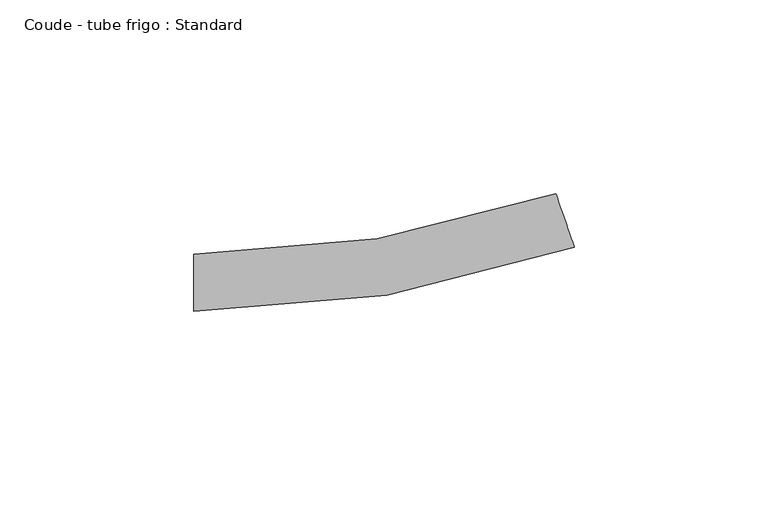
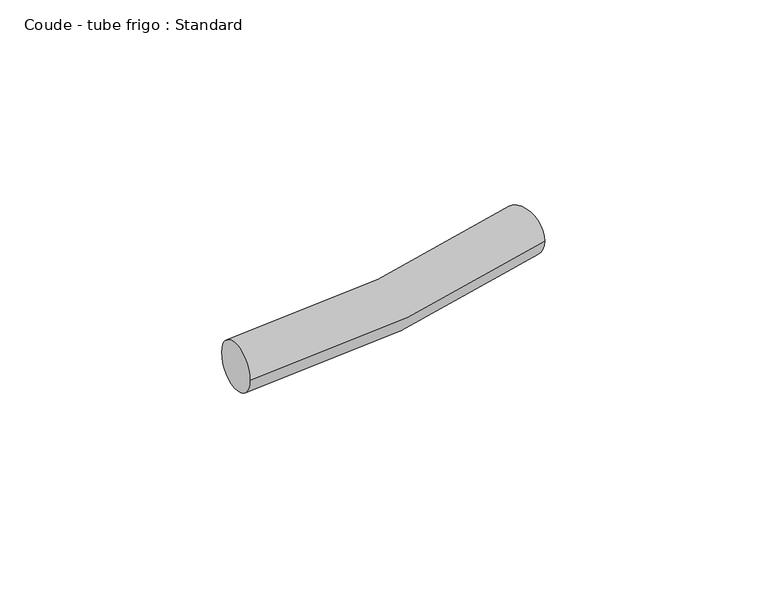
"""IFC4 building model written with IfcOpenShell, lengths in millimetres: pipe fitting geometry, Coude - tube frigo : Standard."""

from ifc_helpers import new_model, si_unit, point, frame, origin, place, context, project, spatial, circle_curve, ellipse_curve, trimmed, source, transform, mapped, element, save
from ifc_brep_helpers import plane_surface, revolved_surface, advanced_brep


def coude_tube_frigo_standard_0133e9cf(model_context):
    return source(origin(), model_context, "Body", "AdvancedBrep", [
        advanced_brep(
        [(-49.3, -7.35, 0.0), (-49.3, 7.35, 0.0), (49.0069917, 9.1009485, 0.0), (44.2211398, 23.0000715, 0.0)],
        [
            (0, 1, circle_curve(frame((-49.3, 0.0, 0.0), z_axis=(-1.0, 0.0, 0.0), x_axis=(0.0, 1.0, 0.0)), 7.35)),
            (1, 0, circle_curve(frame((-49.3, 0.0, 0.0), z_axis=(-1.0, 0.0, 0.0), x_axis=(0.0, 1.0, 0.0)), 7.35)),
            (2, 3, circle_curve(frame((46.6140658, 16.05051, 0.0), z_axis=(0.9455185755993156, 0.3255681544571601, 0.0), x_axis=(-0.3255681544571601, 0.9455185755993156, 0.0)), 7.35)),
            (3, 2, circle_curve(frame((46.6140658, 16.05051, 0.0), z_axis=(0.9455185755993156, 0.3255681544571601, 0.0), x_axis=(-0.3255681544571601, 0.9455185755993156, 0.0)), 7.35)),
            (3, 1, circle_curve(frame((-49.3, 294.6051832, 0.0), z_axis=(0.0, 0.0, -1.0), x_axis=(0.0, -1.0, 0.0)), 287.2551832)),
            (0, 2, circle_curve(frame((-49.3, 294.6051832, 0.0), z_axis=(0.0, 0.0, 1.0), x_axis=(0.0, -1.0, 0.0)), 301.9551832)),
        ],
        [
            plane_surface(frame((-49.3, 0.0, 0.0), z_axis=(-1.0, 0.0, 0.0), x_axis=(0.0, 0.0, 1.0))),
            plane_surface(frame((46.6140658, 16.05051, 0.0), z_axis=(0.9455185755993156, 0.32556815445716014, 0.0), x_axis=(0.0, 0.0, 1.0))),
            revolved_surface(trimmed(ellipse_curve(frame((-49.3, 0.0, 0.0), z_axis=(-1.0, 0.0, 0.0), x_axis=(0.0, 1.0, 0.0)), 7.35, 7.35), [point((-49.3, -7.35, 0.0))], [point((-49.3, 7.35, 0.0))], True, "CARTESIAN"), (-49.3, 294.6051832, 0.0), (0.0, 0.0, 1.0)),
            revolved_surface(trimmed(ellipse_curve(frame((-49.3, 0.0, 0.0), z_axis=(-1.0, 0.0, 0.0), x_axis=(0.0, 1.0, 0.0)), 7.35, 7.35), [point((-49.3, 7.35, 0.0))], [point((-49.3, -7.35, 0.0))], True, "CARTESIAN"), (-49.3, 294.6051832, 0.0), (0.0, 0.0, 1.0)),
        ],
        [
            (0, [[1, 2]]),
            (1, [[3, 4]]),
            (2, [[5, -1, 6, -4]]),
            (3, [[-6, -2, -5, -3]]),
        ],
    ),
    ])


if __name__ == "__main__":
    model = new_model("IFC4")
    model_context = context("Model", 3, world=origin())
    ifc_project = project(units=[si_unit("LENGTHUNIT", "METRE", prefix="MILLI")], contexts=[model_context])
    site = spatial("IfcSite", under=ifc_project)
    building = spatial("IfcBuilding", under=site)
    placement = place(None, origin())
    coude_tube_frigo_standard_shape = coude_tube_frigo_standard_0133e9cf(model_context)
    element("IfcPipeFitting", 1, ObjectType="Coude - tube frigo : Standard", at=placement, inside=building, context=model_context, shape_type="MappedRepresentation", body=[
        mapped(coude_tube_frigo_standard_shape, transform((0.0, 0.0, 0.0), x_axis=(1.0, 0.0, 0.0), y_axis=(0.0, 1.0, 0.0), z_axis=(0.0, 0.0, 1.0))),
    ])
    save(model, "model.ifc")
